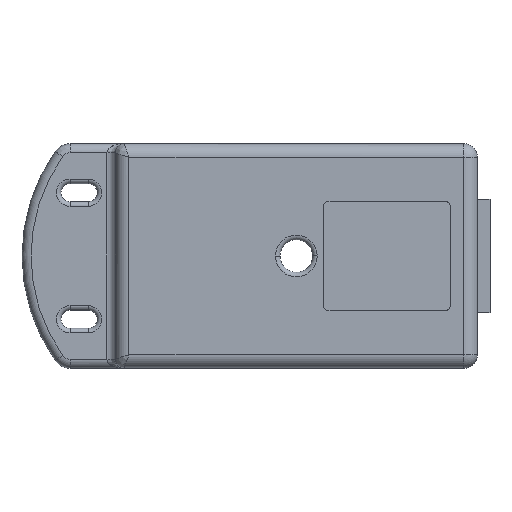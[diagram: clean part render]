
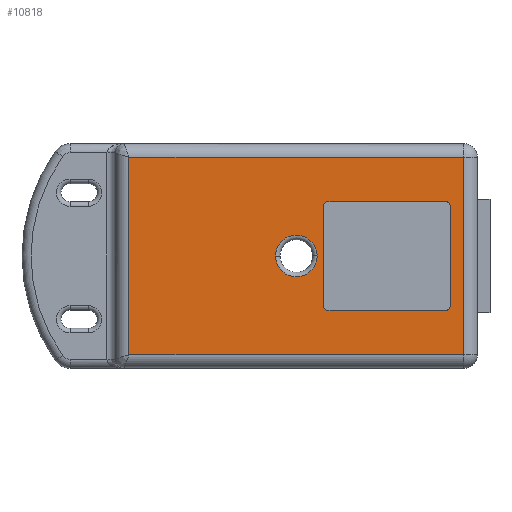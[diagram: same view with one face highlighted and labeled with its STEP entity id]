
A CAD part, front view. The second image highlights one B-rep face of the part: STEP entity #10818.
In plain terms, the highlighted planar face has unit normal (0, -1, 0).
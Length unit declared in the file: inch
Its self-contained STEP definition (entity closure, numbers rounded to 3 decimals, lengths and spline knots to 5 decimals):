
#1946=DIRECTION('',(1.,0.,0.));
#1947=VECTOR('',#1946,1.84997);
#1948=CARTESIAN_POINT('',(-0.92497,-0.4215,
0.54497));
#1949=LINE('',#1948,#1947);
#1950=DIRECTION('',(0.,0.,-1.));
#1951=VECTOR('',#1950,1.09);
#1952=CARTESIAN_POINT('',(0.925,-0.4215,0.545));
#1953=LINE('',#1952,#1951);
#1954=DIRECTION('',(-1.,0.,0.));
#1955=VECTOR('',#1954,1.84997);
#1956=CARTESIAN_POINT('',(0.925,-0.4215,-0.545));
#1957=LINE('',#1956,#1955);
#1958=DIRECTION('',(0.,0.,-1.));
#1959=VECTOR('',#1958,1.08994);
#1960=CARTESIAN_POINT('',(-0.92497,-0.4215,
0.54497));
#1961=LINE('',#1960,#1959);
#1962=CARTESIAN_POINT('',(0.,-0.4215,0.));
#1963=DIRECTION('',(0.,1.,0.));
#1964=DIRECTION('',(1.,0.,0.));
#1965=AXIS2_PLACEMENT_3D('',#1962,#1963,#1964);
#1967=CARTESIAN_POINT('',(0.,-0.4215,0.));
#1968=DIRECTION('',(0.,1.,0.));
#1969=DIRECTION('',(-1.,0.,0.));
#1970=AXIS2_PLACEMENT_3D('',#1967,#1968,#1969);
#1972=DIRECTION('',(-1.,0.,0.));
#1973=VECTOR('',#1972,0.65);
#1974=CARTESIAN_POINT('',(0.825,-0.4215,0.3));
#1975=LINE('',#1974,#1973);
#1976=DIRECTION('',(0.,0.,-1.));
#1977=VECTOR('',#1976,0.55);
#1978=CARTESIAN_POINT('',(0.15,-0.4215,0.275));
#1979=LINE('',#1978,#1977);
#1980=DIRECTION('',(1.,0.,0.));
#1981=VECTOR('',#1980,0.65);
#1982=CARTESIAN_POINT('',(0.175,-0.4215,-0.3));
#1983=LINE('',#1982,#1981);
#1984=DIRECTION('',(0.,0.,1.));
#1985=VECTOR('',#1984,0.55);
#1986=CARTESIAN_POINT('',(0.85,-0.4215,-0.275));
#1987=LINE('',#1986,#1985);
#2194=CARTESIAN_POINT('',(0.175,-0.4215,0.275));
#2195=DIRECTION('',(0.,1.,0.));
#2196=DIRECTION('',(-1.,0.,0.));
#2197=AXIS2_PLACEMENT_3D('',#2194,#2195,#2196);
#2235=CARTESIAN_POINT('',(0.175,-0.4215,-0.275));
#2236=DIRECTION('',(0.,1.,0.));
#2237=DIRECTION('',(0.,0.,-1.));
#2238=AXIS2_PLACEMENT_3D('',#2235,#2236,#2237);
#2248=CARTESIAN_POINT('',(0.825,-0.4215,-0.275));
#2249=DIRECTION('',(0.,1.,0.));
#2250=DIRECTION('',(1.,0.,0.));
#2251=AXIS2_PLACEMENT_3D('',#2248,#2249,#2250);
#2261=CARTESIAN_POINT('',(0.825,-0.4215,0.275));
#2262=DIRECTION('',(0.,1.,0.));
#2263=DIRECTION('',(0.,0.,1.));
#2264=AXIS2_PLACEMENT_3D('',#2261,#2262,#2263);
#6504=CARTESIAN_POINT('',(0.115,-0.4215,0.));
#6505=CARTESIAN_POINT('',(-0.115,-0.4215,0.));
#6506=VERTEX_POINT('',#6504);
#6507=VERTEX_POINT('',#6505);
#6596=CARTESIAN_POINT('',(-0.92497,-0.4215,
0.54497));
#6597=CARTESIAN_POINT('',(0.925,-0.4215,0.545));
#6598=VERTEX_POINT('',#6596);
#6599=VERTEX_POINT('',#6597);
#6608=CARTESIAN_POINT('',(0.925,-0.4215,-0.545));
#6609=CARTESIAN_POINT('',(-0.92497,-0.4215,
-0.54497));
#6610=VERTEX_POINT('',#6608);
#6611=VERTEX_POINT('',#6609);
#6684=CARTESIAN_POINT('',(0.175,-0.4215,-0.3));
#6685=VERTEX_POINT('',#6684);
#6686=CARTESIAN_POINT('',(0.15,-0.4215,-0.275));
#6687=VERTEX_POINT('',#6686);
#6692=CARTESIAN_POINT('',(0.15,-0.4215,0.275));
#6693=VERTEX_POINT('',#6692);
#6694=CARTESIAN_POINT('',(0.175,-0.4215,0.3));
#6695=VERTEX_POINT('',#6694);
#6700=CARTESIAN_POINT('',(0.825,-0.4215,0.3));
#6701=VERTEX_POINT('',#6700);
#6702=CARTESIAN_POINT('',(0.85,-0.4215,0.275));
#6703=VERTEX_POINT('',#6702);
#6708=CARTESIAN_POINT('',(0.85,-0.4215,-0.275));
#6709=VERTEX_POINT('',#6708);
#6710=CARTESIAN_POINT('',(0.825,-0.4215,-0.3));
#6711=VERTEX_POINT('',#6710);
#10781=CARTESIAN_POINT('',(-1.,-0.4215,-0.62));
#10782=DIRECTION('',(0.,-1.,0.));
#10783=DIRECTION('',(1.,0.,0.));
#10784=AXIS2_PLACEMENT_3D('',#10781,#10782,#10783);
#10785=PLANE('',#10784);
#10787=ORIENTED_EDGE('',*,*,#10786,.T.);
#10788=ORIENTED_EDGE('',*,*,#10774,.T.);
#10789=ORIENTED_EDGE('',*,*,#10078,.T.);
#10791=ORIENTED_EDGE('',*,*,#10790,.F.);
#10792=EDGE_LOOP('',(#10787,#10788,#10789,#10791));
#10793=FACE_OUTER_BOUND('',#10792,.F.);
#10795=ORIENTED_EDGE('',*,*,#10794,.F.);
#10797=ORIENTED_EDGE('',*,*,#10796,.F.);
#10798=EDGE_LOOP('',(#10795,#10797));
#10799=FACE_BOUND('',#10798,.F.);
#10801=ORIENTED_EDGE('',*,*,#10800,.T.);
#10803=ORIENTED_EDGE('',*,*,#10802,.F.);
#10805=ORIENTED_EDGE('',*,*,#10804,.T.);
#10807=ORIENTED_EDGE('',*,*,#10806,.F.);
#10809=ORIENTED_EDGE('',*,*,#10808,.T.);
#10811=ORIENTED_EDGE('',*,*,#10810,.F.);
#10813=ORIENTED_EDGE('',*,*,#10812,.T.);
#10815=ORIENTED_EDGE('',*,*,#10814,.F.);
#10816=EDGE_LOOP('',(#10801,#10803,#10805,#10807,#10809,#10811,#10813,#10815));
#10817=FACE_BOUND('',#10816,.F.);
#10818=ADVANCED_FACE('',(#10793,#10799,#10817),#10785,.T.);
#1966=CIRCLE('',#1965,0.115);
#1971=CIRCLE('',#1970,0.115);
#2198=CIRCLE('',#2197,0.025);
#2239=CIRCLE('',#2238,0.025);
#2252=CIRCLE('',#2251,0.025);
#2265=CIRCLE('',#2264,0.025);
#10078=EDGE_CURVE('',#6610,#6611,#1957,.T.);
#10774=EDGE_CURVE('',#6599,#6610,#1953,.T.);
#10786=EDGE_CURVE('',#6598,#6599,#1949,.T.);
#10790=EDGE_CURVE('',#6598,#6611,#1961,.T.);
#10794=EDGE_CURVE('',#6506,#6507,#1966,.T.);
#10796=EDGE_CURVE('',#6507,#6506,#1971,.T.);
#10800=EDGE_CURVE('',#6701,#6695,#1975,.T.);
#10802=EDGE_CURVE('',#6693,#6695,#2198,.T.);
#10804=EDGE_CURVE('',#6693,#6687,#1979,.T.);
#10806=EDGE_CURVE('',#6685,#6687,#2239,.T.);
#10808=EDGE_CURVE('',#6685,#6711,#1983,.T.);
#10810=EDGE_CURVE('',#6709,#6711,#2252,.T.);
#10812=EDGE_CURVE('',#6709,#6703,#1987,.T.);
#10814=EDGE_CURVE('',#6701,#6703,#2265,.T.);
